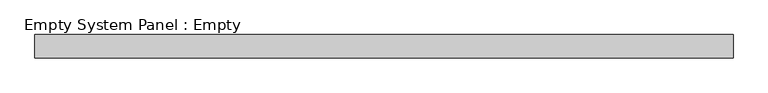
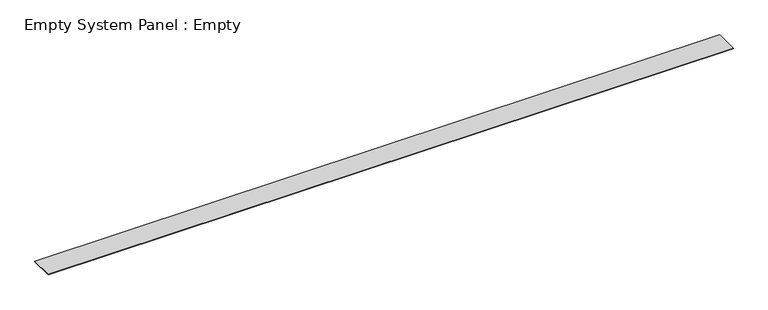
"""IFC4 building model written with IfcOpenShell, lengths in millimetres: plate geometry, Empty System Panel : Empty."""

from ifc_helpers import new_model, si_unit, origin, origin_with_axes, place, context, project, spatial, polyline, outline, extrude, source, transform, mapped, element, save


def empty_system_panel_empty_02c6fd44(model_context):
    return source(origin(), model_context, "Body", "SweptSolid", [
        extrude(outline(polyline([(1500.0, 50.0), (-1500.0, 50.0), (-1500.0, 150.0), (1500.0, 150.0), (1500.0, 50.0)])), origin_with_axes(), (0.0, 0.0, 1.0), 2.5173441),
    ])


if __name__ == "__main__":
    model = new_model("IFC4")
    model_context = context("Model", 3, world=origin())
    ifc_project = project(units=[si_unit("LENGTHUNIT", "METRE", prefix="MILLI")], contexts=[model_context])
    site = spatial("IfcSite", under=ifc_project)
    building = spatial("IfcBuilding", under=site)
    placement = place(None, origin())
    empty_system_panel_empty_shape = empty_system_panel_empty_02c6fd44(model_context)
    element("IfcPlate", 1, ObjectType="Empty System Panel : Empty", at=placement, inside=building, context=model_context, shape_type="MappedRepresentation", body=[
        mapped(empty_system_panel_empty_shape, transform((0.0, 0.0, 0.0), x_axis=(1.0, 0.0, 0.0), y_axis=(0.0, 1.0, 0.0), z_axis=(0.0, 0.0, 1.0))),
    ])
    save(model, "model.ifc")
